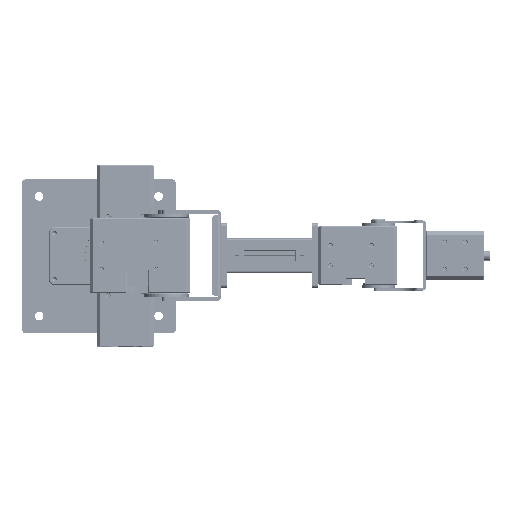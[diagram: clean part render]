
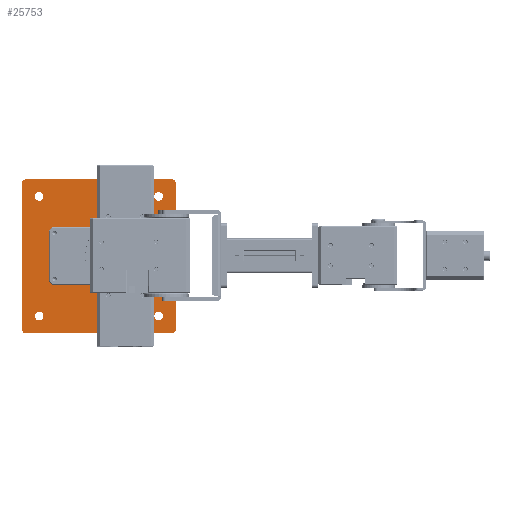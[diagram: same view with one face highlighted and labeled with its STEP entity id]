
A CAD part, top view. The second image highlights one B-rep face of the part: STEP entity #25753.
In plain terms, the highlighted planar face has unit normal (0, 0, 1) as drawn and (0, 0, -1) by its records, which use the part's own axes.
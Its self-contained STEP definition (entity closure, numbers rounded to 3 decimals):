
#1051=PLANE('',#27499);
#1801=LINE('',#38553,#3579);
#1805=LINE('',#38565,#3583);
#1809=LINE('',#38577,#3587);
#1811=LINE('',#38585,#3589);
#1815=LINE('',#38642,#3593);
#1819=LINE('',#38654,#3597);
#1823=LINE('',#38666,#3601);
#1827=LINE('',#38677,#3605);
#3579=VECTOR('',#30578,29.5);
#3583=VECTOR('',#30590,28.);
#3587=VECTOR('',#30602,29.5);
#3589=VECTOR('',#30612,28.);
#3593=VECTOR('',#30680,86.);
#3597=VECTOR('',#30692,86.);
#3601=VECTOR('',#30704,86.);
#3605=VECTOR('',#30716,86.);
#5373=FACE_BOUND('',#8159,.T.);
#5374=FACE_BOUND('',#8160,.T.);
#5375=FACE_BOUND('',#8161,.T.);
#5376=FACE_BOUND('',#8162,.T.);
#5377=FACE_BOUND('',#8163,.T.);
#5378=FACE_BOUND('',#8164,.T.);
#5379=FACE_BOUND('',#8165,.T.);
#5380=FACE_BOUND('',#8166,.T.);
#5381=FACE_BOUND('',#8167,.T.);
#5382=FACE_BOUND('',#8168,.T.);
#5383=FACE_BOUND('',#8169,.T.);
#5384=FACE_BOUND('',#8170,.T.);
#5385=FACE_BOUND('',#8171,.T.);
#5386=FACE_BOUND('',#8172,.T.);
#8159=EDGE_LOOP('',(#18336));
#8160=EDGE_LOOP('',(#18337));
#8161=EDGE_LOOP('',(#18338));
#8162=EDGE_LOOP('',(#18339));
#8163=EDGE_LOOP('',(#18340));
#8164=EDGE_LOOP('',(#18341));
#8165=EDGE_LOOP('',(#18342));
#8166=EDGE_LOOP('',(#18343));
#8167=EDGE_LOOP('',(#18344,#18345,#18346,#18347,#18348,#18349,#18350,#18351));
#8168=EDGE_LOOP('',(#18352));
#8169=EDGE_LOOP('',(#18353));
#8170=EDGE_LOOP('',(#18354));
#8171=EDGE_LOOP('',(#18355));
#8172=EDGE_LOOP('',(#18356,#18357,#18358,#18359,#18360,#18361,#18362,#18363));
#10854=CIRCLE('',#27417,2.05);
#10856=CIRCLE('',#27420,2.05);
#10858=CIRCLE('',#27423,2.05);
#10860=CIRCLE('',#27426,2.05);
#10862=CIRCLE('',#27429,2.55);
#10864=CIRCLE('',#27432,2.55);
#10866=CIRCLE('',#27435,2.55);
#10868=CIRCLE('',#27438,2.55);
#10870=CIRCLE('',#27441,2.);
#10872=CIRCLE('',#27445,2.);
#10874=CIRCLE('',#27449,2.);
#10876=CIRCLE('',#27453,2.);
#10880=CIRCLE('',#27461,1.3);
#10884=CIRCLE('',#27468,1.3);
#10888=CIRCLE('',#27475,1.3);
#10892=CIRCLE('',#27482,1.3);
#10893=CIRCLE('',#27484,2.);
#10895=CIRCLE('',#27488,2.);
#10897=CIRCLE('',#27492,2.);
#10899=CIRCLE('',#27496,2.);
#12263=VERTEX_POINT('',#38502);
#12265=VERTEX_POINT('',#38507);
#12267=VERTEX_POINT('',#38512);
#12269=VERTEX_POINT('',#38517);
#12271=VERTEX_POINT('',#38522);
#12273=VERTEX_POINT('',#38527);
#12275=VERTEX_POINT('',#38532);
#12277=VERTEX_POINT('',#38537);
#12280=VERTEX_POINT('',#38543);
#12281=VERTEX_POINT('',#38545);
#12283=VERTEX_POINT('',#38551);
#12285=VERTEX_POINT('',#38557);
#12287=VERTEX_POINT('',#38563);
#12289=VERTEX_POINT('',#38569);
#12291=VERTEX_POINT('',#38575);
#12293=VERTEX_POINT('',#38581);
#12297=VERTEX_POINT('',#38596);
#12301=VERTEX_POINT('',#38607);
#12305=VERTEX_POINT('',#38618);
#12309=VERTEX_POINT('',#38629);
#12310=VERTEX_POINT('',#38632);
#12311=VERTEX_POINT('',#38633);
#12314=VERTEX_POINT('',#38641);
#12316=VERTEX_POINT('',#38647);
#12318=VERTEX_POINT('',#38653);
#12320=VERTEX_POINT('',#38659);
#12322=VERTEX_POINT('',#38665);
#12324=VERTEX_POINT('',#38671);
#14818=EDGE_CURVE('',#12263,#12263,#10854,.T.);
#14820=EDGE_CURVE('',#12265,#12265,#10856,.T.);
#14822=EDGE_CURVE('',#12267,#12267,#10858,.T.);
#14824=EDGE_CURVE('',#12269,#12269,#10860,.T.);
#14826=EDGE_CURVE('',#12271,#12271,#10862,.T.);
#14828=EDGE_CURVE('',#12273,#12273,#10864,.T.);
#14830=EDGE_CURVE('',#12275,#12275,#10866,.T.);
#14832=EDGE_CURVE('',#12277,#12277,#10868,.T.);
#14835=EDGE_CURVE('',#12280,#12281,#10870,.T.);
#14839=EDGE_CURVE('',#12280,#12283,#1801,.T.);
#14842=EDGE_CURVE('',#12285,#12283,#10872,.T.);
#14845=EDGE_CURVE('',#12285,#12287,#1805,.T.);
#14848=EDGE_CURVE('',#12289,#12287,#10874,.T.);
#14851=EDGE_CURVE('',#12289,#12291,#1809,.T.);
#14854=EDGE_CURVE('',#12293,#12291,#10876,.T.);
#14855=EDGE_CURVE('',#12293,#12281,#1811,.T.);
#14860=EDGE_CURVE('',#12297,#12297,#10880,.T.);
#14864=EDGE_CURVE('',#12301,#12301,#10884,.T.);
#14868=EDGE_CURVE('',#12305,#12305,#10888,.T.);
#14872=EDGE_CURVE('',#12309,#12309,#10892,.T.);
#14873=EDGE_CURVE('',#12310,#12311,#10893,.T.);
#14877=EDGE_CURVE('',#12311,#12314,#1815,.T.);
#14880=EDGE_CURVE('',#12314,#12316,#10895,.T.);
#14883=EDGE_CURVE('',#12316,#12318,#1819,.T.);
#14886=EDGE_CURVE('',#12318,#12320,#10897,.T.);
#14889=EDGE_CURVE('',#12320,#12322,#1823,.T.);
#14892=EDGE_CURVE('',#12322,#12324,#10899,.T.);
#14895=EDGE_CURVE('',#12324,#12310,#1827,.T.);
#18336=ORIENTED_EDGE('',*,*,#14818,.T.);
#18337=ORIENTED_EDGE('',*,*,#14820,.T.);
#18338=ORIENTED_EDGE('',*,*,#14822,.T.);
#18339=ORIENTED_EDGE('',*,*,#14824,.T.);
#18340=ORIENTED_EDGE('',*,*,#14826,.T.);
#18341=ORIENTED_EDGE('',*,*,#14828,.T.);
#18342=ORIENTED_EDGE('',*,*,#14830,.T.);
#18343=ORIENTED_EDGE('',*,*,#14832,.T.);
#18344=ORIENTED_EDGE('',*,*,#14855,.T.);
#18345=ORIENTED_EDGE('',*,*,#14835,.F.);
#18346=ORIENTED_EDGE('',*,*,#14839,.T.);
#18347=ORIENTED_EDGE('',*,*,#14842,.F.);
#18348=ORIENTED_EDGE('',*,*,#14845,.T.);
#18349=ORIENTED_EDGE('',*,*,#14848,.F.);
#18350=ORIENTED_EDGE('',*,*,#14851,.T.);
#18351=ORIENTED_EDGE('',*,*,#14854,.F.);
#18352=ORIENTED_EDGE('',*,*,#14860,.T.);
#18353=ORIENTED_EDGE('',*,*,#14864,.T.);
#18354=ORIENTED_EDGE('',*,*,#14868,.T.);
#18355=ORIENTED_EDGE('',*,*,#14872,.T.);
#18356=ORIENTED_EDGE('',*,*,#14895,.T.);
#18357=ORIENTED_EDGE('',*,*,#14873,.T.);
#18358=ORIENTED_EDGE('',*,*,#14877,.T.);
#18359=ORIENTED_EDGE('',*,*,#14880,.T.);
#18360=ORIENTED_EDGE('',*,*,#14883,.T.);
#18361=ORIENTED_EDGE('',*,*,#14886,.T.);
#18362=ORIENTED_EDGE('',*,*,#14889,.T.);
#18363=ORIENTED_EDGE('',*,*,#14892,.T.);
#25753=ADVANCED_FACE('',(#5373,#5374,#5375,#5376,#5377,#5378,#5379,#5380,
#5381,#5382,#5383,#5384,#5385,#5386),#1051,.F.);
#27417=AXIS2_PLACEMENT_3D('',#38503,#30522,#30523);
#27420=AXIS2_PLACEMENT_3D('',#38508,#30528,#30529);
#27423=AXIS2_PLACEMENT_3D('',#38513,#30534,#30535);
#27426=AXIS2_PLACEMENT_3D('',#38518,#30540,#30541);
#27429=AXIS2_PLACEMENT_3D('',#38523,#30546,#30547);
#27432=AXIS2_PLACEMENT_3D('',#38528,#30552,#30553);
#27435=AXIS2_PLACEMENT_3D('',#38533,#30558,#30559);
#27438=AXIS2_PLACEMENT_3D('',#38538,#30564,#30565);
#27441=AXIS2_PLACEMENT_3D('',#38546,#30571,#30572);
#27445=AXIS2_PLACEMENT_3D('',#38559,#30584,#30585);
#27449=AXIS2_PLACEMENT_3D('',#38571,#30596,#30597);
#27453=AXIS2_PLACEMENT_3D('',#38583,#30608,#30609);
#27461=AXIS2_PLACEMENT_3D('',#38597,#30626,#30627);
#27468=AXIS2_PLACEMENT_3D('',#38608,#30640,#30641);
#27475=AXIS2_PLACEMENT_3D('',#38619,#30654,#30655);
#27482=AXIS2_PLACEMENT_3D('',#38630,#30668,#30669);
#27484=AXIS2_PLACEMENT_3D('',#38634,#30672,#30673);
#27488=AXIS2_PLACEMENT_3D('',#38648,#30685,#30686);
#27492=AXIS2_PLACEMENT_3D('',#38660,#30697,#30698);
#27496=AXIS2_PLACEMENT_3D('',#38672,#30709,#30710);
#27499=AXIS2_PLACEMENT_3D('',#38679,#30718,#30719);
#30522=DIRECTION('center_axis',(0.,0.,1.));
#30523=DIRECTION('ref_axis',(-1.,0.,0.));
#30528=DIRECTION('center_axis',(0.,0.,1.));
#30529=DIRECTION('ref_axis',(-1.,0.,0.));
#30534=DIRECTION('center_axis',(0.,0.,1.));
#30535=DIRECTION('ref_axis',(-1.,0.,0.));
#30540=DIRECTION('center_axis',(0.,0.,1.));
#30541=DIRECTION('ref_axis',(-1.,0.,0.));
#30546=DIRECTION('center_axis',(0.,0.,1.));
#30547=DIRECTION('ref_axis',(-1.,0.,0.));
#30552=DIRECTION('center_axis',(0.,0.,1.));
#30553=DIRECTION('ref_axis',(-1.,0.,0.));
#30558=DIRECTION('center_axis',(0.,0.,1.));
#30559=DIRECTION('ref_axis',(-1.,0.,0.));
#30564=DIRECTION('center_axis',(0.,0.,1.));
#30565=DIRECTION('ref_axis',(-1.,0.,0.));
#30571=DIRECTION('center_axis',(0.,0.,-1.));
#30572=DIRECTION('ref_axis',(-0.707,-0.707,0.));
#30578=DIRECTION('',(1.,0.,0.));
#30584=DIRECTION('center_axis',(0.,0.,-1.));
#30585=DIRECTION('ref_axis',(0.707,-0.707,0.));
#30590=DIRECTION('',(0.,1.,0.));
#30596=DIRECTION('center_axis',(0.,0.,-1.));
#30597=DIRECTION('ref_axis',(0.707,0.707,0.));
#30602=DIRECTION('',(-1.,0.,0.));
#30608=DIRECTION('center_axis',(0.,0.,-1.));
#30609=DIRECTION('ref_axis',(-0.707,0.707,0.));
#30612=DIRECTION('',(0.,-1.,0.));
#30626=DIRECTION('center_axis',(0.,0.,1.));
#30627=DIRECTION('ref_axis',(1.,0.,0.));
#30640=DIRECTION('center_axis',(0.,0.,1.));
#30641=DIRECTION('ref_axis',(1.,0.,0.));
#30654=DIRECTION('center_axis',(0.,0.,1.));
#30655=DIRECTION('ref_axis',(1.,0.,0.));
#30668=DIRECTION('center_axis',(0.,0.,1.));
#30669=DIRECTION('ref_axis',(1.,0.,0.));
#30672=DIRECTION('center_axis',(0.,0.,-1.));
#30673=DIRECTION('ref_axis',(-1.,0.,0.));
#30680=DIRECTION('',(0.,-1.,0.));
#30685=DIRECTION('center_axis',(0.,0.,-1.));
#30686=DIRECTION('ref_axis',(0.,1.,0.));
#30692=DIRECTION('',(-1.,0.,0.));
#30697=DIRECTION('center_axis',(0.,0.,-1.));
#30698=DIRECTION('ref_axis',(1.,0.,0.));
#30704=DIRECTION('',(0.,1.,0.));
#30709=DIRECTION('center_axis',(0.,0.,-1.));
#30710=DIRECTION('ref_axis',(0.,-1.,0.));
#30716=DIRECTION('',(1.,0.,0.));
#30718=DIRECTION('center_axis',(0.,0.,1.));
#30719=DIRECTION('ref_axis',(1.,0.,0.));
#38502=CARTESIAN_POINT('',(-14.55,-40.5,0.));
#38503=CARTESIAN_POINT('Origin',(-12.5,-40.5,0.));
#38507=CARTESIAN_POINT('',(35.45,-15.5,0.));
#38508=CARTESIAN_POINT('Origin',(37.5,-15.5,0.));
#38512=CARTESIAN_POINT('',(-39.55,-15.5,0.));
#38513=CARTESIAN_POINT('Origin',(-37.5,-15.5,0.));
#38517=CARTESIAN_POINT('',(10.45,-40.5,0.));
#38518=CARTESIAN_POINT('Origin',(12.5,-40.5,0.));
#38522=CARTESIAN_POINT('',(-37.55,35.,0.));
#38523=CARTESIAN_POINT('Origin',(-35.,35.,0.));
#38527=CARTESIAN_POINT('',(32.45,-35.,0.));
#38528=CARTESIAN_POINT('Origin',(35.,-35.,0.));
#38532=CARTESIAN_POINT('',(32.45,35.,0.));
#38533=CARTESIAN_POINT('Origin',(35.,35.,0.));
#38537=CARTESIAN_POINT('',(-37.55,-35.,0.));
#38538=CARTESIAN_POINT('Origin',(-35.,-35.,0.));
#38543=CARTESIAN_POINT('',(-14.75,-16.,0.));
#38545=CARTESIAN_POINT('',(-16.75,-14.,0.));
#38546=CARTESIAN_POINT('Origin',(-14.75,-14.,0.));
#38551=CARTESIAN_POINT('',(14.75,-16.,0.));
#38553=CARTESIAN_POINT('',(8.375,-16.,0.));
#38557=CARTESIAN_POINT('',(16.75,-14.,0.));
#38559=CARTESIAN_POINT('Origin',(14.75,-14.,0.));
#38563=CARTESIAN_POINT('',(16.75,14.,0.));
#38565=CARTESIAN_POINT('',(16.75,8.,0.));
#38569=CARTESIAN_POINT('',(14.75,16.,0.));
#38571=CARTESIAN_POINT('Origin',(14.75,14.,0.));
#38575=CARTESIAN_POINT('',(-14.75,16.,0.));
#38577=CARTESIAN_POINT('',(-8.375,16.,0.));
#38581=CARTESIAN_POINT('',(-16.75,14.,0.));
#38583=CARTESIAN_POINT('Origin',(-14.75,14.,0.));
#38585=CARTESIAN_POINT('',(-16.75,-8.,0.));
#38596=CARTESIAN_POINT('',(12.2,-26.,0.));
#38597=CARTESIAN_POINT('Origin',(13.5,-26.,0.));
#38607=CARTESIAN_POINT('',(-14.8,26.,0.));
#38608=CARTESIAN_POINT('Origin',(-13.5,26.,0.));
#38618=CARTESIAN_POINT('',(-14.8,-26.,0.));
#38619=CARTESIAN_POINT('Origin',(-13.5,-26.,0.));
#38629=CARTESIAN_POINT('',(12.2,26.,0.));
#38630=CARTESIAN_POINT('Origin',(13.5,26.,0.));
#38632=CARTESIAN_POINT('',(43.,45.,0.));
#38633=CARTESIAN_POINT('',(45.,43.,0.));
#38634=CARTESIAN_POINT('Origin',(43.,43.,0.));
#38641=CARTESIAN_POINT('',(45.,-43.,0.));
#38642=CARTESIAN_POINT('',(45.,43.,0.));
#38647=CARTESIAN_POINT('',(43.,-45.,0.));
#38648=CARTESIAN_POINT('Origin',(43.,-43.,0.));
#38653=CARTESIAN_POINT('',(-43.,-45.,0.));
#38654=CARTESIAN_POINT('',(43.,-45.,0.));
#38659=CARTESIAN_POINT('',(-45.,-43.,0.));
#38660=CARTESIAN_POINT('Origin',(-43.,-43.,0.));
#38665=CARTESIAN_POINT('',(-45.,43.,0.));
#38666=CARTESIAN_POINT('',(-45.,-43.,0.));
#38671=CARTESIAN_POINT('',(-43.,45.,0.));
#38672=CARTESIAN_POINT('Origin',(-43.,43.,0.));
#38677=CARTESIAN_POINT('',(-43.,45.,0.));
#38679=CARTESIAN_POINT('Origin',(0.,0.,
0.));
